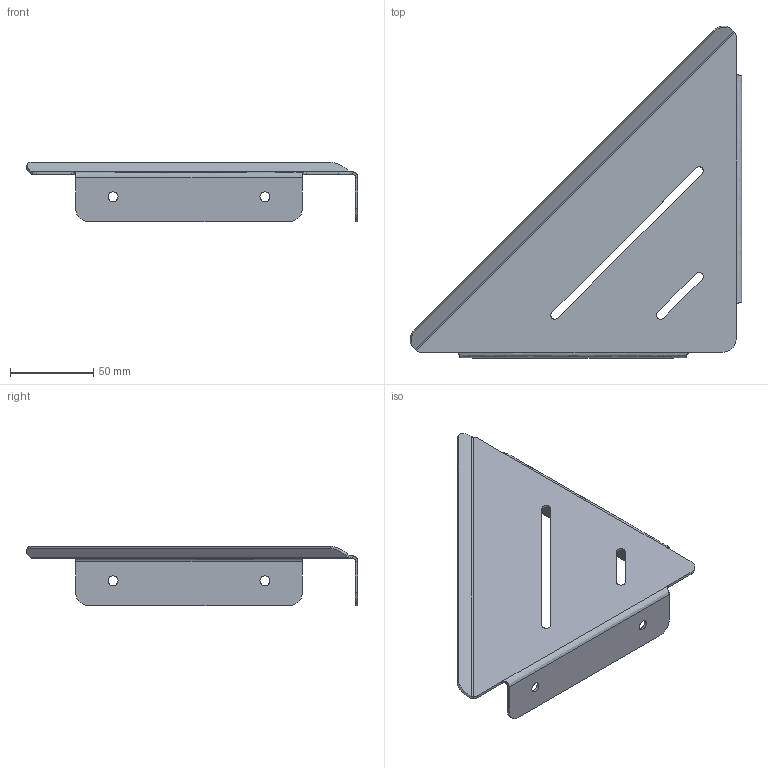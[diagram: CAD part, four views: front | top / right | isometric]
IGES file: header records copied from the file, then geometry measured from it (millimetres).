
Start section: IGES file generated by C3D Converter 1.5 translator by C3D Labs., translator version IGESOUT-5.1.
Global section: file name: D:\×åðòåæè èçäåëèé Âàííà 2023\Ïîëêè Simple Íîâûå\3D\×åðòåæè 22.07.2023\3D\SIMPLE_2_CORNER.igs; preprocessor: 1.0; author: a.kalenyk83@gmail.com; organization: unknown; date: -17770622:110910; units: millimetre
Bounding box: 199.88 x 199.88 x 35.77 mm (x, y, z)
Volume: 43669.3 mm3; surface area: 60013.3 mm2
Topology: 1 solids, 1 shells, 65 faces, 165 edges, 102 vertices
Faces by surface type: bspline 37, revolution 28
